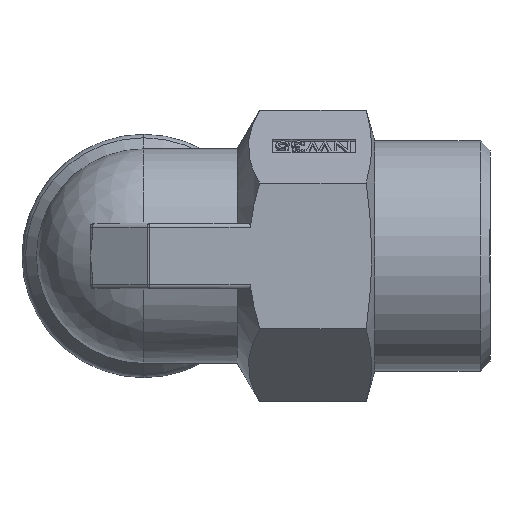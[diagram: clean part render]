
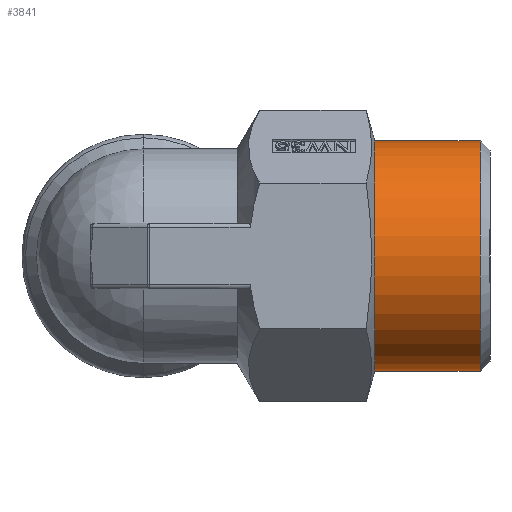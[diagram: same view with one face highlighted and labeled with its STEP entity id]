
A CAD part, left-side view. The second image highlights one B-rep face of the part: STEP entity #3841.
In plain terms, the highlighted cylindrical face has radius 20.95 mm (diameter 41.9 mm), a partial arc.
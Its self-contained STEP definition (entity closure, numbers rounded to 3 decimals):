
#20 = CARTESIAN_POINT ( 'NONE',  ( 0., -42., 20.95 ) ) ;
#54 = DIRECTION ( 'NONE',  ( 0., 0., -1. ) ) ;
#133 = VERTEX_POINT ( 'NONE', #878 ) ;
#141 = VECTOR ( 'NONE', #5310, 1000. ) ;
#221 = DIRECTION ( 'NONE',  ( 0., 1., 0. ) ) ;
#243 = ORIENTED_EDGE ( 'NONE', *, *, #6120, .T. ) ;
#307 = EDGE_LOOP ( 'NONE', ( #3390, #6132, #3373, #243 ) ) ;
#493 = VERTEX_POINT ( 'NONE', #825 ) ;
#542 = LINE ( 'NONE', #1783, #1810 ) ;
#825 = CARTESIAN_POINT ( 'NONE',  ( 0., -42., -20.95 ) ) ;
#875 = EDGE_CURVE ( 'NONE', #133, #4607, #5876, .T. ) ;
#878 = CARTESIAN_POINT ( 'NONE',  ( 0., -61.2, -20.95 ) ) ;
#923 = DIRECTION ( 'NONE',  ( 0., 1., 0. ) ) ;
#1021 = DIRECTION ( 'NONE',  ( 0., -1., 0. ) ) ;
#1783 = CARTESIAN_POINT ( 'NONE',  ( 0., -63., 20.95 ) ) ;
#1810 = VECTOR ( 'NONE', #221, 1000. ) ;
#1883 = FACE_OUTER_BOUND ( 'NONE', #307, .T. ) ;
#2020 = EDGE_CURVE ( 'NONE', #133, #493, #3928, .T. ) ;
#2040 = CARTESIAN_POINT ( 'NONE',  ( 0., -42., 0. ) ) ;
#2052 = CIRCLE ( 'NONE', #5522, 20.95 ) ;
#2259 = DIRECTION ( 'NONE',  ( 0., 1., 0. ) ) ;
#2457 = CARTESIAN_POINT ( 'NONE',  ( 0., -61.2, 0. ) ) ;
#3074 = CYLINDRICAL_SURFACE ( 'NONE', #6576, 20.95 ) ;
#3255 = CARTESIAN_POINT ( 'NONE',  ( 0., -63., -20.95 ) ) ;
#3373 = ORIENTED_EDGE ( 'NONE', *, *, #5755, .T. ) ;
#3390 = ORIENTED_EDGE ( 'NONE', *, *, #2020, .F. ) ;
#3841 = ADVANCED_FACE ( 'NONE', ( #1883 ), #3074, .T. ) ;
#3928 = LINE ( 'NONE', #3255, #141 ) ;
#4182 = VERTEX_POINT ( 'NONE', #20 ) ;
#4529 = CARTESIAN_POINT ( 'NONE',  ( 0., -61.2, 20.95 ) ) ;
#4607 = VERTEX_POINT ( 'NONE', #4529 ) ;
#5310 = DIRECTION ( 'NONE',  ( 0., 1., 0. ) ) ;
#5315 = CARTESIAN_POINT ( 'NONE',  ( 0., -63., 0. ) ) ;
#5522 = AXIS2_PLACEMENT_3D ( 'NONE', #2040, #1021, #54 ) ;
#5755 = EDGE_CURVE ( 'NONE', #4607, #4182, #542, .T. ) ;
#5825 = DIRECTION ( 'NONE',  ( 0., 0., 1. ) ) ;
#5876 = CIRCLE ( 'NONE', #6412, 20.95 ) ;
#6067 = DIRECTION ( 'NONE',  ( 0., 0., -1. ) ) ;
#6120 = EDGE_CURVE ( 'NONE', #4182, #493, #2052, .T. ) ;
#6132 = ORIENTED_EDGE ( 'NONE', *, *, #875, .T. ) ;
#6412 = AXIS2_PLACEMENT_3D ( 'NONE', #2457, #923, #6067 ) ;
#6576 = AXIS2_PLACEMENT_3D ( 'NONE', #5315, #2259, #5825 ) ;
